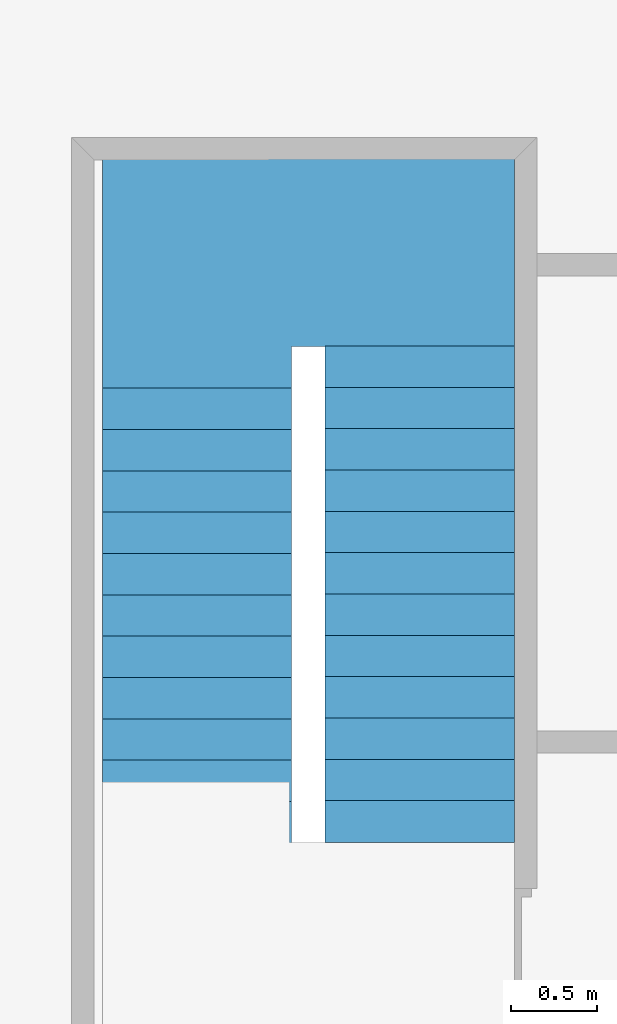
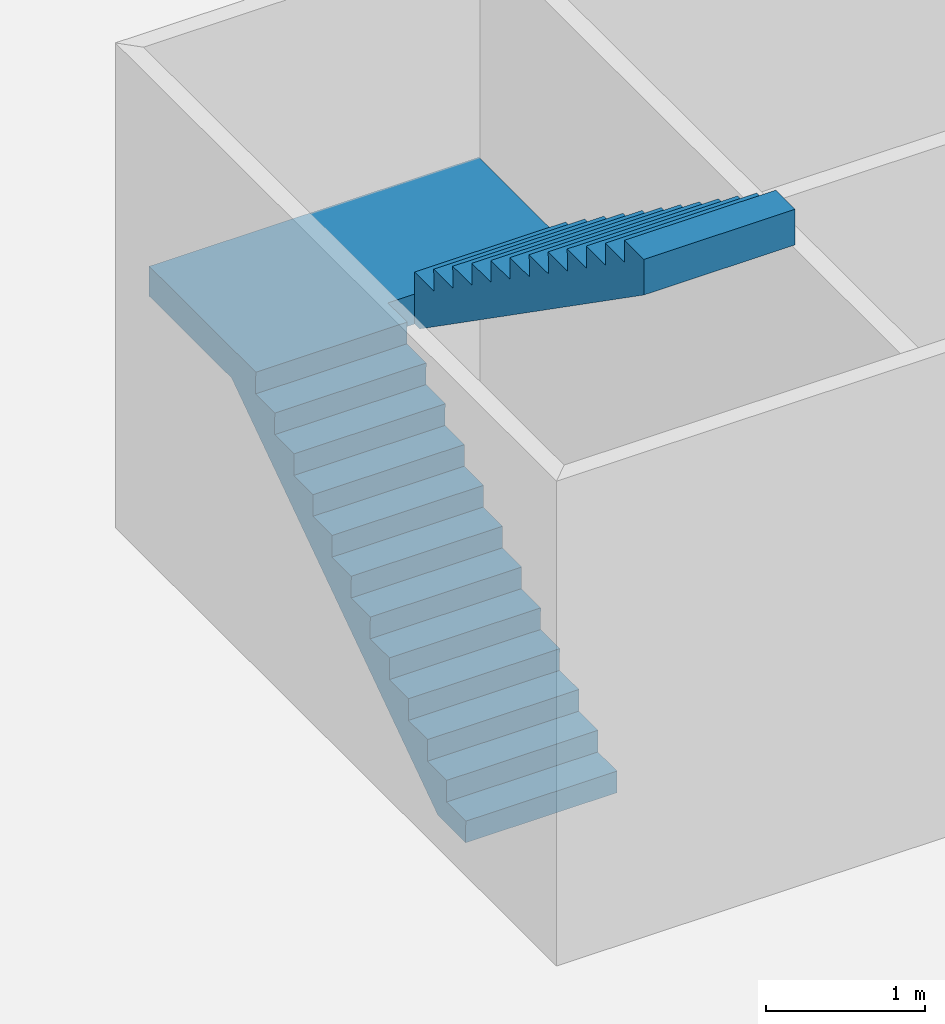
# One storey, part 25 of 27: 1 stair.
"""IFC2X3 building model written with IfcOpenShell, lengths in metres."""

from ifc_helpers import new_model, entity, si_unit, converted_unit, money_unit, direction, frame, origin_with_axes, place, context, subcontext, project, spatial, faceted_brep, material, element, save


model = new_model("IFC2X3")

# Units and contexts
model_context = context("Model", 3, precision=1e-05, world=origin_with_axes(), true_north=direction((0.0, 1.0)))
body_context = subcontext(model_context, "Body", "Model", "MODEL_VIEW")
ifc_project = project(units=[si_unit("LENGTHUNIT", "METRE"), si_unit("AREAUNIT", "SQUARE_METRE"), si_unit("VOLUMEUNIT", "CUBIC_METRE"), converted_unit("PLANEANGLEUNIT", "DEGREE", entity("IfcPlaneAngleMeasure", 0.0174532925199), si_unit("PLANEANGLEUNIT", "RADIAN"), dimensions=[0, 0, 0, 0, 0, 0, 0]), si_unit("SOLIDANGLEUNIT", "STERADIAN"), money_unit("EUR"), converted_unit("TIMEUNIT", "Year", entity("IfcTimeMeasure", 31556926.0), si_unit("TIMEUNIT", "SECOND"), dimensions=[0, 0, 0, 0, 0, 0, 0]), si_unit("MASSUNIT", "GRAM"), si_unit("THERMODYNAMICTEMPERATUREUNIT", "DEGREE_CELSIUS"), si_unit("LUMINOUSINTENSITYUNIT", "LUMEN")], contexts=[model_context])

# Site, building, storey
site_placement = place(None, origin_with_axes())
site = spatial("IfcSite", under=ifc_project, at=site_placement, Name="Undefined", CompositionType="ELEMENT")
building_placement = place(site_placement, origin_with_axes())
building = spatial("IfcBuilding", under=site, at=building_placement, Name="Undefined", CompositionType="ELEMENT")
storey_placement = place(building_placement, frame((0.0, 0.0, 5.4), z_axis=(0.0, 0.0, 1.0), x_axis=(1.0, 0.0, 0.0)))
storey = spatial("IfcBuildingStorey", under=building, at=storey_placement, Name="R+1", CompositionType="ELEMENT", Elevation=5.4)

# Stair
ifc_material = material(Name="Concrete Block")
stair_placement = place(storey_placement, frame((47.265, 10.6413765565, 0.0), z_axis=(0.0, 0.0, 1.0), x_axis=(0.0, -1.0, 0.0)))
element("IfcStair", 1, at=stair_placement, inside=storey, material=ifc_material, Name="Stair_01", ObjectType="STAIR", ShapeType="NOTDEFINED", context=body_context, shape_type="Brep", body=[
    faceted_brep([(-0.349169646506, 0.0, 0.0), (-2.94657736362, 0.0, 1.785), (-2.94657736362, 1.1, 1.785), (-0.349169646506, 1.1, 0.0), (-0.02, 0.0, 0.0), (-0.02, 0.0, 0.137916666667), (-0.260301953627, 0.0, 0.137916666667), (-0.260301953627, 0.0, 0.305833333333), (-0.500603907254, 0.0, 0.305833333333), (-0.500603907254, 0.0, 0.47375), (-0.740905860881, 0.0, 0.47375), (-0.740905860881, 0.0, 0.641666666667), (-0.981207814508, 0.0, 0.641666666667), (-0.981207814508, 0.0, 0.809583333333), (-1.22150976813, 0.0, 0.809583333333), (-1.22150976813, 0.0, 0.9775), (-1.46181172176, 0.0, 0.9775), (-1.46181172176, 0.0, 1.14541666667), (-1.70211367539, 0.0, 1.14541666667), (-1.70211367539, 0.0, 1.31333333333), (-1.94241562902, 0.0, 1.31333333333), (-1.94241562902, 0.0, 1.48125), (-2.18271758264, 0.0, 1.48125), (-2.18271758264, 0.0, 1.64916666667), (-2.42301953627, 0.0, 1.64916666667), (-2.42301953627, 0.0, 1.81708333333), (-2.6633214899, 0.0, 1.81708333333), (-2.6633214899, 0.0, 1.985), (-2.90362344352, 0.0, 1.985), (-3.98362344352, 0.0, 1.985), (-3.98362344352, 0.0, 1.785), (-3.98362344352, 1.1, 1.785), (-3.98362344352, 1.1, 1.985), (-2.90362344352, 1.1, 1.985), (-2.6633214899, 1.1, 1.985), (-2.6633214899, 1.1, 1.81708333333), (-2.42301953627, 1.1, 1.81708333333), (-2.42301953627, 1.1, 1.64916666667), (-2.18271758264, 1.1, 1.64916666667), (-2.18271758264, 1.1, 1.48125), (-1.94241562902, 1.1, 1.48125), (-1.94241562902, 1.1, 1.31333333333), (-1.70211367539, 1.1, 1.31333333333), (-1.70211367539, 1.1, 1.14541666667), (-1.46181172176, 1.1, 1.14541666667), (-1.46181172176, 1.1, 0.9775), (-1.22150976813, 1.1, 0.9775), (-1.22150976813, 1.1, 0.809583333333), (-0.981207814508, 1.1, 0.809583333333), (-0.981207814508, 1.1, 0.641666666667), (-0.740905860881, 1.1, 0.641666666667), (-0.740905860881, 1.1, 0.47375), (-0.500603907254, 1.1, 0.47375), (-0.500603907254, 1.1, 0.305833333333), (-0.260301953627, 1.1, 0.305833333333), (-0.260301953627, 1.1, 0.137916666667), (-0.02, 1.1, 0.137916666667), (-0.02, 1.1, 0.0)], [[[0, 1, 2, 3]], [[0, 4, 5, 6, 7, 8, 9, 10, 11, 12, 13, 14, 15, 16, 17, 18, 19, 20, 21, 22, 23, 24, 25, 26, 27, 28, 29, 30, 1]], [[1, 30, 31, 2]], [[3, 2, 31, 32, 33, 34, 35, 36, 37, 38, 39, 40, 41, 42, 43, 44, 45, 46, 47, 48, 49, 50, 51, 52, 53, 54, 55, 56, 57]], [[4, 0, 3, 57]], [[5, 4, 57, 56]], [[6, 5, 56, 55]], [[7, 6, 55, 54]], [[8, 7, 54, 53]], [[9, 8, 53, 52]], [[10, 9, 52, 51]], [[11, 10, 51, 50]], [[12, 11, 50, 49]], [[13, 12, 49, 48]], [[14, 13, 48, 47]], [[15, 14, 47, 46]], [[16, 15, 46, 45]], [[17, 16, 45, 44]], [[18, 17, 44, 43]], [[19, 18, 43, 42]], [[20, 19, 42, 41]], [[21, 20, 41, 40]], [[22, 21, 40, 39]], [[23, 22, 39, 38]], [[24, 23, 38, 37]], [[25, 24, 37, 36]], [[26, 25, 36, 35]], [[27, 26, 35, 34]], [[28, 27, 34, 33]], [[29, 28, 33, 32]], [[30, 29, 32, 31]]]),
    faceted_brep([(-2.88362344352, 1.1, 1.985), (-2.88362344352, 1.1, 1.785), (-2.88362344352, 1.29499998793, 1.785), (-2.88362344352, 1.29499998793, 1.985), (-3.98362344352, 1.1, 1.985), (-3.98362344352, 1.1, 1.785), (-2.94657736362, 1.1, 1.785), (-2.94657736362, 1.29499998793, 1.785), (-3.98362344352, 1.29499998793, 1.785), (-3.98362344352, 1.29499998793, 1.985)], [[[0, 1, 2, 3]], [[0, 4, 5, 6, 1]], [[1, 6, 7, 2]], [[3, 2, 7, 8, 9]], [[4, 0, 3, 9]], [[5, 4, 9, 8]], [[6, 5, 8, 7]]]),
    faceted_brep([(-2.88362344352, 1.29499998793, 1.985), (-2.88362344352, 1.29499998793, 1.785), (-2.88362344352, 2.39499998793, 1.785), (-2.88362344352, 2.39499998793, 1.985), (-3.98362344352, 1.29499998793, 1.985), (-3.98362344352, 1.29499998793, 1.785), (-3.98362344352, 2.39499998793, 1.785), (-3.98362344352, 2.39499998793, 1.985)], [[[0, 1, 2, 3]], [[0, 4, 5, 1]], [[1, 5, 6, 2]], [[3, 2, 6, 7]], [[4, 0, 3, 7]], [[5, 4, 7, 6]]]),
    faceted_brep([(-2.88362344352, 1.29499998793, 1.785), (-2.88362344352, 2.39499998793, 1.785), (-2.82066952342, 2.39499998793, 1.785), (-2.82066952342, 1.29499998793, 1.785), (-2.88362344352, 1.29499998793, 1.985), (-2.88362344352, 2.39499998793, 1.985), (-2.86362344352, 2.39499998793, 1.985), (-2.86362344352, 2.39499998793, 2.15291666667), (-2.6233214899, 2.39499998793, 2.15291666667), (-2.6233214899, 2.39499998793, 2.32083333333), (-2.38301953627, 2.39499998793, 2.32083333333), (-2.38301953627, 2.39499998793, 2.48875), (-2.14271758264, 2.39499998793, 2.48875), (-2.14271758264, 2.39499998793, 2.65666666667), (-1.90241562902, 2.39499998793, 2.65666666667), (-1.90241562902, 2.39499998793, 2.82458333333), (-1.66211367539, 2.39499998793, 2.82458333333), (-1.66211367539, 2.39499998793, 2.9925), (-1.42181172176, 2.39499998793, 2.9925), (-1.42181172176, 2.39499998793, 3.16041666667), (-1.18150976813, 2.39499998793, 3.16041666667), (-1.18150976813, 2.39499998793, 3.32833333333), (-0.941207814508, 2.39499998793, 3.32833333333), (-0.941207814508, 2.39499998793, 3.49625), (-0.700905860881, 2.39499998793, 3.49625), (-0.700905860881, 2.39499998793, 3.66416666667), (-0.460603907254, 2.39499998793, 3.66416666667), (-0.460603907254, 2.39499998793, 3.83208333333), (-0.220301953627, 2.39499998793, 3.83208333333), (-0.220301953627, 2.39499998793, 4.0), (0.0, 2.39499998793, 4.0), (0.0, 2.39499998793, 3.75600946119), (0.0, 1.29499998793, 3.75600946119), (0.0, 1.29499998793, 4.0), (-0.220301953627, 1.29499998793, 4.0), (-0.220301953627, 1.29499998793, 3.83208333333), (-0.460603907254, 1.29499998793, 3.83208333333), (-0.460603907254, 1.29499998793, 3.66416666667), (-0.700905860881, 1.29499998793, 3.66416666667), (-0.700905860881, 1.29499998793, 3.49625), (-0.941207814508, 1.29499998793, 3.49625), (-0.941207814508, 1.29499998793, 3.32833333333), (-1.18150976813, 1.29499998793, 3.32833333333), (-1.18150976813, 1.29499998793, 3.16041666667), (-1.42181172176, 1.29499998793, 3.16041666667), (-1.42181172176, 1.29499998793, 2.9925), (-1.66211367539, 1.29499998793, 2.9925), (-1.66211367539, 1.29499998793, 2.82458333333), (-1.90241562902, 1.29499998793, 2.82458333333), (-1.90241562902, 1.29499998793, 2.65666666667), (-2.14271758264, 1.29499998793, 2.65666666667), (-2.14271758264, 1.29499998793, 2.48875), (-2.38301953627, 1.29499998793, 2.48875), (-2.38301953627, 1.29499998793, 2.32083333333), (-2.6233214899, 1.29499998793, 2.32083333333), (-2.6233214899, 1.29499998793, 2.15291666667), (-2.86362344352, 1.29499998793, 2.15291666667), (-2.86362344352, 1.29499998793, 1.985)], [[[0, 1, 2, 3]], [[4, 5, 1, 0]], [[1, 5, 6, 7, 8, 9, 10, 11, 12, 13, 14, 15, 16, 17, 18, 19, 20, 21, 22, 23, 24, 25, 26, 27, 28, 29, 30, 31, 2]], [[3, 2, 31, 32]], [[0, 3, 32, 33, 34, 35, 36, 37, 38, 39, 40, 41, 42, 43, 44, 45, 46, 47, 48, 49, 50, 51, 52, 53, 54, 55, 56, 57, 4]], [[57, 6, 5, 4]], [[56, 7, 6, 57]], [[55, 8, 7, 56]], [[54, 9, 8, 55]], [[53, 10, 9, 54]], [[52, 11, 10, 53]], [[51, 12, 11, 52]], [[50, 13, 12, 51]], [[49, 14, 13, 50]], [[48, 15, 14, 49]], [[47, 16, 15, 48]], [[46, 17, 16, 47]], [[45, 18, 17, 46]], [[44, 19, 18, 45]], [[43, 20, 19, 44]], [[42, 21, 20, 43]], [[41, 22, 21, 42]], [[40, 23, 22, 41]], [[39, 24, 23, 40]], [[38, 25, 24, 39]], [[37, 26, 25, 38]], [[36, 27, 26, 37]], [[35, 28, 27, 36]], [[34, 29, 28, 35]], [[33, 30, 29, 34]], [[32, 31, 30, 33]]]),
    faceted_brep([(0.0, 0.0, 0.0), (-0.02, 0.0, 0.0), (-0.02, 1.1, 0.0), (0.0, 1.1, 0.0), (0.0, 0.0, 0.137916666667), (-0.02, 0.0, 0.137916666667), (-0.02, 1.1, 0.137916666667), (0.0, 1.1, 0.137916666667)], [[[0, 1, 2, 3]], [[0, 4, 5, 1]], [[1, 5, 6, 2]], [[3, 2, 6, 7]], [[4, 0, 3, 7]], [[5, 4, 7, 6]]]),
    faceted_brep([(-0.240301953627, 0.0, 0.167916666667), (-0.260301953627, 0.0, 0.167916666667), (-0.260301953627, 1.1, 0.167916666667), (-0.240301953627, 1.1, 0.167916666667), (-0.240301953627, 0.0, 0.305833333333), (-0.260301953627, 0.0, 0.305833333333), (-0.260301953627, 1.1, 0.305833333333), (-0.240301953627, 1.1, 0.305833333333)], [[[0, 1, 2, 3]], [[0, 4, 5, 1]], [[1, 5, 6, 2]], [[3, 2, 6, 7]], [[4, 0, 3, 7]], [[5, 4, 7, 6]]]),
    faceted_brep([(-0.480603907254, 0.0, 0.335833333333), (-0.500603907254, 0.0, 0.335833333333), (-0.500603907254, 1.1, 0.335833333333), (-0.480603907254, 1.1, 0.335833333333), (-0.480603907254, 0.0, 0.47375), (-0.500603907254, 0.0, 0.47375), (-0.500603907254, 1.1, 0.47375), (-0.480603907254, 1.1, 0.47375)], [[[0, 1, 2, 3]], [[0, 4, 5, 1]], [[1, 5, 6, 2]], [[3, 2, 6, 7]], [[4, 0, 3, 7]], [[5, 4, 7, 6]]]),
    faceted_brep([(-0.720905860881, 0.0, 0.50375), (-0.740905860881, 0.0, 0.50375), (-0.740905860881, 1.1, 0.50375), (-0.720905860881, 1.1, 0.50375), (-0.720905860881, 0.0, 0.641666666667), (-0.740905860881, 0.0, 0.641666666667), (-0.740905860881, 1.1, 0.641666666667), (-0.720905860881, 1.1, 0.641666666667)], [[[0, 1, 2, 3]], [[0, 4, 5, 1]], [[1, 5, 6, 2]], [[3, 2, 6, 7]], [[4, 0, 3, 7]], [[5, 4, 7, 6]]]),
    faceted_brep([(-0.961207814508, 0.0, 0.671666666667), (-0.981207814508, 0.0, 0.671666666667), (-0.981207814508, 1.1, 0.671666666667), (-0.961207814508, 1.1, 0.671666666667), (-0.961207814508, 0.0, 0.809583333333), (-0.981207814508, 0.0, 0.809583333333), (-0.981207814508, 1.1, 0.809583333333), (-0.961207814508, 1.1, 0.809583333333)], [[[0, 1, 2, 3]], [[0, 4, 5, 1]], [[1, 5, 6, 2]], [[3, 2, 6, 7]], [[4, 0, 3, 7]], [[5, 4, 7, 6]]]),
    faceted_brep([(-1.20150976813, 0.0, 0.839583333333), (-1.22150976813, 0.0, 0.839583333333), (-1.22150976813, 1.1, 0.839583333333), (-1.20150976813, 1.1, 0.839583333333), (-1.20150976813, 0.0, 0.9775), (-1.22150976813, 0.0, 0.9775), (-1.22150976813, 1.1, 0.9775), (-1.20150976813, 1.1, 0.9775)], [[[0, 1, 2, 3]], [[0, 4, 5, 1]], [[1, 5, 6, 2]], [[3, 2, 6, 7]], [[4, 0, 3, 7]], [[5, 4, 7, 6]]]),
    faceted_brep([(-1.44181172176, 0.0, 1.0075), (-1.46181172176, 0.0, 1.0075), (-1.46181172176, 1.1, 1.0075), (-1.44181172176, 1.1, 1.0075), (-1.44181172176, 0.0, 1.14541666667), (-1.46181172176, 0.0, 1.14541666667), (-1.46181172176, 1.1, 1.14541666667), (-1.44181172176, 1.1, 1.14541666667)], [[[0, 1, 2, 3]], [[0, 4, 5, 1]], [[1, 5, 6, 2]], [[3, 2, 6, 7]], [[4, 0, 3, 7]], [[5, 4, 7, 6]]]),
    faceted_brep([(-1.68211367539, 0.0, 1.17541666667), (-1.70211367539, 0.0, 1.17541666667), (-1.70211367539, 1.1, 1.17541666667), (-1.68211367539, 1.1, 1.17541666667), (-1.68211367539, 0.0, 1.31333333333), (-1.70211367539, 0.0, 1.31333333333), (-1.70211367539, 1.1, 1.31333333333), (-1.68211367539, 1.1, 1.31333333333)], [[[0, 1, 2, 3]], [[0, 4, 5, 1]], [[1, 5, 6, 2]], [[3, 2, 6, 7]], [[4, 0, 3, 7]], [[5, 4, 7, 6]]]),
    faceted_brep([(-1.92241562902, 0.0, 1.34333333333), (-1.94241562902, 0.0, 1.34333333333), (-1.94241562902, 1.1, 1.34333333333), (-1.92241562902, 1.1, 1.34333333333), (-1.92241562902, 0.0, 1.48125), (-1.94241562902, 0.0, 1.48125), (-1.94241562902, 1.1, 1.48125), (-1.92241562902, 1.1, 1.48125)], [[[0, 1, 2, 3]], [[0, 4, 5, 1]], [[1, 5, 6, 2]], [[3, 2, 6, 7]], [[4, 0, 3, 7]], [[5, 4, 7, 6]]]),
    faceted_brep([(-2.16271758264, 0.0, 1.51125), (-2.18271758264, 0.0, 1.51125), (-2.18271758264, 1.1, 1.51125), (-2.16271758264, 1.1, 1.51125), (-2.16271758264, 0.0, 1.64916666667), (-2.18271758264, 0.0, 1.64916666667), (-2.18271758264, 1.1, 1.64916666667), (-2.16271758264, 1.1, 1.64916666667)], [[[0, 1, 2, 3]], [[0, 4, 5, 1]], [[1, 5, 6, 2]], [[3, 2, 6, 7]], [[4, 0, 3, 7]], [[5, 4, 7, 6]]]),
    faceted_brep([(-2.40301953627, 0.0, 1.67916666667), (-2.42301953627, 0.0, 1.67916666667), (-2.42301953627, 1.1, 1.67916666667), (-2.40301953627, 1.1, 1.67916666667), (-2.40301953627, 0.0, 1.81708333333), (-2.42301953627, 0.0, 1.81708333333), (-2.42301953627, 1.1, 1.81708333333), (-2.40301953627, 1.1, 1.81708333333)], [[[0, 1, 2, 3]], [[0, 4, 5, 1]], [[1, 5, 6, 2]], [[3, 2, 6, 7]], [[4, 0, 3, 7]], [[5, 4, 7, 6]]]),
    faceted_brep([(-2.6433214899, 0.0, 1.84708333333), (-2.6633214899, 0.0, 1.84708333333), (-2.6633214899, 1.1, 1.84708333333), (-2.6433214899, 1.1, 1.84708333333), (-2.6433214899, 0.0, 1.985), (-2.6633214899, 0.0, 1.985), (-2.6633214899, 1.1, 1.985), (-2.6433214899, 1.1, 1.985)], [[[0, 1, 2, 3]], [[0, 4, 5, 1]], [[1, 5, 6, 2]], [[3, 2, 6, 7]], [[4, 0, 3, 7]], [[5, 4, 7, 6]]]),
    faceted_brep([(-2.88362344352, 1.29499998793, 2.015), (-2.88362344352, 2.39499998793, 2.015), (-2.86362344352, 2.39499998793, 2.015), (-2.86362344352, 1.29499998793, 2.015), (-2.88362344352, 1.29499998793, 2.15291666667), (-2.88362344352, 2.39499998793, 2.15291666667), (-2.86362344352, 2.39499998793, 2.15291666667), (-2.86362344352, 1.29499998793, 2.15291666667)], [[[0, 1, 2, 3]], [[4, 5, 1, 0]], [[1, 5, 6, 2]], [[3, 2, 6, 7]], [[0, 3, 7, 4]], [[7, 6, 5, 4]]]),
    faceted_brep([(-2.6433214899, 1.29499998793, 2.18291666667), (-2.6433214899, 2.39499998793, 2.18291666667), (-2.6233214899, 2.39499998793, 2.18291666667), (-2.6233214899, 1.29499998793, 2.18291666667), (-2.6433214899, 1.29499998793, 2.32083333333), (-2.6433214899, 2.39499998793, 2.32083333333), (-2.6233214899, 2.39499998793, 2.32083333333), (-2.6233214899, 1.29499998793, 2.32083333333)], [[[0, 1, 2, 3]], [[4, 5, 1, 0]], [[1, 5, 6, 2]], [[3, 2, 6, 7]], [[0, 3, 7, 4]], [[7, 6, 5, 4]]]),
    faceted_brep([(-2.40301953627, 1.29499998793, 2.35083333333), (-2.40301953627, 2.39499998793, 2.35083333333), (-2.38301953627, 2.39499998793, 2.35083333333), (-2.38301953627, 1.29499998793, 2.35083333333), (-2.40301953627, 1.29499998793, 2.48875), (-2.40301953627, 2.39499998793, 2.48875), (-2.38301953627, 2.39499998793, 2.48875), (-2.38301953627, 1.29499998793, 2.48875)], [[[0, 1, 2, 3]], [[4, 5, 1, 0]], [[1, 5, 6, 2]], [[3, 2, 6, 7]], [[0, 3, 7, 4]], [[7, 6, 5, 4]]]),
    faceted_brep([(-2.16271758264, 1.29499998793, 2.51875), (-2.16271758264, 2.39499998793, 2.51875), (-2.14271758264, 2.39499998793, 2.51875), (-2.14271758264, 1.29499998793, 2.51875), (-2.16271758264, 1.29499998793, 2.65666666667), (-2.16271758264, 2.39499998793, 2.65666666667), (-2.14271758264, 2.39499998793, 2.65666666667), (-2.14271758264, 1.29499998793, 2.65666666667)], [[[0, 1, 2, 3]], [[4, 5, 1, 0]], [[1, 5, 6, 2]], [[3, 2, 6, 7]], [[0, 3, 7, 4]], [[7, 6, 5, 4]]]),
    faceted_brep([(-1.92241562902, 1.29499998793, 2.68666666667), (-1.92241562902, 2.39499998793, 2.68666666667), (-1.90241562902, 2.39499998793, 2.68666666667), (-1.90241562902, 1.29499998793, 2.68666666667), (-1.92241562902, 1.29499998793, 2.82458333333), (-1.92241562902, 2.39499998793, 2.82458333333), (-1.90241562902, 2.39499998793, 2.82458333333), (-1.90241562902, 1.29499998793, 2.82458333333)], [[[0, 1, 2, 3]], [[4, 5, 1, 0]], [[1, 5, 6, 2]], [[3, 2, 6, 7]], [[0, 3, 7, 4]], [[7, 6, 5, 4]]]),
    faceted_brep([(-1.68211367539, 1.29499998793, 2.85458333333), (-1.68211367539, 2.39499998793, 2.85458333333), (-1.66211367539, 2.39499998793, 2.85458333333), (-1.66211367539, 1.29499998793, 2.85458333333), (-1.68211367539, 1.29499998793, 2.9925), (-1.68211367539, 2.39499998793, 2.9925), (-1.66211367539, 2.39499998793, 2.9925), (-1.66211367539, 1.29499998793, 2.9925)], [[[0, 1, 2, 3]], [[4, 5, 1, 0]], [[1, 5, 6, 2]], [[3, 2, 6, 7]], [[0, 3, 7, 4]], [[7, 6, 5, 4]]]),
    faceted_brep([(-1.44181172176, 1.29499998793, 3.0225), (-1.44181172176, 2.39499998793, 3.0225), (-1.42181172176, 2.39499998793, 3.0225), (-1.42181172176, 1.29499998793, 3.0225), (-1.44181172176, 1.29499998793, 3.16041666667), (-1.44181172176, 2.39499998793, 3.16041666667), (-1.42181172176, 2.39499998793, 3.16041666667), (-1.42181172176, 1.29499998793, 3.16041666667)], [[[0, 1, 2, 3]], [[4, 5, 1, 0]], [[1, 5, 6, 2]], [[3, 2, 6, 7]], [[0, 3, 7, 4]], [[7, 6, 5, 4]]]),
    faceted_brep([(-1.20150976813, 1.29499998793, 3.19041666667), (-1.20150976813, 2.39499998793, 3.19041666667), (-1.18150976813, 2.39499998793, 3.19041666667), (-1.18150976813, 1.29499998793, 3.19041666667), (-1.20150976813, 1.29499998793, 3.32833333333), (-1.20150976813, 2.39499998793, 3.32833333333), (-1.18150976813, 2.39499998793, 3.32833333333), (-1.18150976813, 1.29499998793, 3.32833333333)], [[[0, 1, 2, 3]], [[4, 5, 1, 0]], [[1, 5, 6, 2]], [[3, 2, 6, 7]], [[0, 3, 7, 4]], [[7, 6, 5, 4]]]),
    faceted_brep([(-0.961207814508, 1.29499998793, 3.35833333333), (-0.961207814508, 2.39499998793, 3.35833333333), (-0.941207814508, 2.39499998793, 3.35833333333), (-0.941207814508, 1.29499998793, 3.35833333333), (-0.961207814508, 1.29499998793, 3.49625), (-0.961207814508, 2.39499998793, 3.49625), (-0.941207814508, 2.39499998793, 3.49625), (-0.941207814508, 1.29499998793, 3.49625)], [[[0, 1, 2, 3]], [[4, 5, 1, 0]], [[1, 5, 6, 2]], [[3, 2, 6, 7]], [[0, 3, 7, 4]], [[7, 6, 5, 4]]]),
    faceted_brep([(-0.720905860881, 1.29499998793, 3.52625), (-0.720905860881, 2.39499998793, 3.52625), (-0.700905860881, 2.39499998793, 3.52625), (-0.700905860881, 1.29499998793, 3.52625), (-0.720905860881, 1.29499998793, 3.66416666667), (-0.720905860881, 2.39499998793, 3.66416666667), (-0.700905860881, 2.39499998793, 3.66416666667), (-0.700905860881, 1.29499998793, 3.66416666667)], [[[0, 1, 2, 3]], [[4, 5, 1, 0]], [[1, 5, 6, 2]], [[3, 2, 6, 7]], [[0, 3, 7, 4]], [[7, 6, 5, 4]]]),
    faceted_brep([(-0.480603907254, 1.29499998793, 3.69416666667), (-0.480603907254, 2.39499998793, 3.69416666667), (-0.460603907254, 2.39499998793, 3.69416666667), (-0.460603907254, 1.29499998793, 3.69416666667), (-0.480603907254, 1.29499998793, 3.83208333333), (-0.480603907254, 2.39499998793, 3.83208333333), (-0.460603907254, 2.39499998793, 3.83208333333), (-0.460603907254, 1.29499998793, 3.83208333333)], [[[0, 1, 2, 3]], [[4, 5, 1, 0]], [[1, 5, 6, 2]], [[3, 2, 6, 7]], [[0, 3, 7, 4]], [[7, 6, 5, 4]]]),
    faceted_brep([(-0.240301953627, 1.29499998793, 3.86208333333), (-0.240301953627, 2.39499998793, 3.86208333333), (-0.220301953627, 2.39499998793, 3.86208333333), (-0.220301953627, 1.29499998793, 3.86208333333), (-0.240301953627, 1.29499998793, 4.0), (-0.240301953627, 2.39499998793, 4.0), (-0.220301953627, 2.39499998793, 4.0), (-0.220301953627, 1.29499998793, 4.0)], [[[0, 1, 2, 3]], [[4, 5, 1, 0]], [[1, 5, 6, 2]], [[3, 2, 6, 7]], [[0, 3, 7, 4]], [[7, 6, 5, 4]]]),
    faceted_brep([(0.0025, 0.0, 0.137916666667), (-0.260301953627, 0.0, 0.137916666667), (-0.260301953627, 1.1, 0.137916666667), (0.0025, 1.1, 0.137916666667), (0.0025, 0.0, 0.167916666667), (-0.260301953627, 0.0, 0.167916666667), (-0.260301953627, 1.1, 0.167916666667), (0.0025, 1.1, 0.167916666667)], [[[0, 1, 2, 3]], [[0, 4, 5, 1]], [[1, 5, 6, 2]], [[3, 2, 6, 7]], [[4, 0, 3, 7]], [[5, 4, 7, 6]]]),
    faceted_brep([(-0.237801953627, 0.0, 0.305833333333), (-0.500603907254, 0.0, 0.305833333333), (-0.500603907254, 1.1, 0.305833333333), (-0.237801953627, 1.1, 0.305833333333), (-0.237801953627, 0.0, 0.335833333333), (-0.500603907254, 0.0, 0.335833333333), (-0.500603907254, 1.1, 0.335833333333), (-0.237801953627, 1.1, 0.335833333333)], [[[0, 1, 2, 3]], [[0, 4, 5, 1]], [[1, 5, 6, 2]], [[3, 2, 6, 7]], [[4, 0, 3, 7]], [[5, 4, 7, 6]]]),
    faceted_brep([(-0.478103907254, 0.0, 0.47375), (-0.740905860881, 0.0, 0.47375), (-0.740905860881, 1.1, 0.47375), (-0.478103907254, 1.1, 0.47375), (-0.478103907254, 0.0, 0.50375), (-0.740905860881, 0.0, 0.50375), (-0.740905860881, 1.1, 0.50375), (-0.478103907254, 1.1, 0.50375)], [[[0, 1, 2, 3]], [[0, 4, 5, 1]], [[1, 5, 6, 2]], [[3, 2, 6, 7]], [[4, 0, 3, 7]], [[5, 4, 7, 6]]]),
    faceted_brep([(-0.718405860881, 0.0, 0.641666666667), (-0.981207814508, 0.0, 0.641666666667), (-0.981207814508, 1.1, 0.641666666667), (-0.718405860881, 1.1, 0.641666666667), (-0.718405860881, 0.0, 0.671666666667), (-0.981207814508, 0.0, 0.671666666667), (-0.981207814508, 1.1, 0.671666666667), (-0.718405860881, 1.1, 0.671666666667)], [[[0, 1, 2, 3]], [[0, 4, 5, 1]], [[1, 5, 6, 2]], [[3, 2, 6, 7]], [[4, 0, 3, 7]], [[5, 4, 7, 6]]]),
    faceted_brep([(-0.958707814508, 0.0, 0.809583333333), (-1.22150976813, 0.0, 0.809583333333), (-1.22150976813, 1.1, 0.809583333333), (-0.958707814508, 1.1, 0.809583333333), (-0.958707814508, 0.0, 0.839583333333), (-1.22150976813, 0.0, 0.839583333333), (-1.22150976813, 1.1, 0.839583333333), (-0.958707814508, 1.1, 0.839583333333)], [[[0, 1, 2, 3]], [[0, 4, 5, 1]], [[1, 5, 6, 2]], [[3, 2, 6, 7]], [[4, 0, 3, 7]], [[5, 4, 7, 6]]]),
    faceted_brep([(-1.19900976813, 0.0, 0.9775), (-1.46181172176, 0.0, 0.9775), (-1.46181172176, 1.1, 0.9775), (-1.19900976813, 1.1, 0.9775), (-1.19900976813, 0.0, 1.0075), (-1.46181172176, 0.0, 1.0075), (-1.46181172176, 1.1, 1.0075), (-1.19900976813, 1.1, 1.0075)], [[[0, 1, 2, 3]], [[0, 4, 5, 1]], [[1, 5, 6, 2]], [[3, 2, 6, 7]], [[4, 0, 3, 7]], [[5, 4, 7, 6]]]),
    faceted_brep([(-1.43931172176, 0.0, 1.14541666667), (-1.70211367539, 0.0, 1.14541666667), (-1.70211367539, 1.1, 1.14541666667), (-1.43931172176, 1.1, 1.14541666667), (-1.43931172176, 0.0, 1.17541666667), (-1.70211367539, 0.0, 1.17541666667), (-1.70211367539, 1.1, 1.17541666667), (-1.43931172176, 1.1, 1.17541666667)], [[[0, 1, 2, 3]], [[0, 4, 5, 1]], [[1, 5, 6, 2]], [[3, 2, 6, 7]], [[4, 0, 3, 7]], [[5, 4, 7, 6]]]),
    faceted_brep([(-1.67961367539, 0.0, 1.31333333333), (-1.94241562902, 0.0, 1.31333333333), (-1.94241562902, 1.1, 1.31333333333), (-1.67961367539, 1.1, 1.31333333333), (-1.67961367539, 0.0, 1.34333333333), (-1.94241562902, 0.0, 1.34333333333), (-1.94241562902, 1.1, 1.34333333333), (-1.67961367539, 1.1, 1.34333333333)], [[[0, 1, 2, 3]], [[0, 4, 5, 1]], [[1, 5, 6, 2]], [[3, 2, 6, 7]], [[4, 0, 3, 7]], [[5, 4, 7, 6]]]),
    faceted_brep([(-1.91991562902, 0.0, 1.48125), (-2.18271758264, 0.0, 1.48125), (-2.18271758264, 1.1, 1.48125), (-1.91991562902, 1.1, 1.48125), (-1.91991562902, 0.0, 1.51125), (-2.18271758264, 0.0, 1.51125), (-2.18271758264, 1.1, 1.51125), (-1.91991562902, 1.1, 1.51125)], [[[0, 1, 2, 3]], [[0, 4, 5, 1]], [[1, 5, 6, 2]], [[3, 2, 6, 7]], [[4, 0, 3, 7]], [[5, 4, 7, 6]]]),
    faceted_brep([(-2.16021758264, 0.0, 1.64916666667), (-2.42301953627, 0.0, 1.64916666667), (-2.42301953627, 1.1, 1.64916666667), (-2.16021758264, 1.1, 1.64916666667), (-2.16021758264, 0.0, 1.67916666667), (-2.42301953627, 0.0, 1.67916666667), (-2.42301953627, 1.1, 1.67916666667), (-2.16021758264, 1.1, 1.67916666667)], [[[0, 1, 2, 3]], [[0, 4, 5, 1]], [[1, 5, 6, 2]], [[3, 2, 6, 7]], [[4, 0, 3, 7]], [[5, 4, 7, 6]]]),
    faceted_brep([(-2.40051953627, 0.0, 1.81708333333), (-2.6633214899, 0.0, 1.81708333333), (-2.6633214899, 1.1, 1.81708333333), (-2.40051953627, 1.1, 1.81708333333), (-2.40051953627, 0.0, 1.84708333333), (-2.6633214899, 0.0, 1.84708333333), (-2.6633214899, 1.1, 1.84708333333), (-2.40051953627, 1.1, 1.84708333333)], [[[0, 1, 2, 3]], [[0, 4, 5, 1]], [[1, 5, 6, 2]], [[3, 2, 6, 7]], [[4, 0, 3, 7]], [[5, 4, 7, 6]]]),
    faceted_brep([(-2.6408214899, 0.0, 1.985), (-2.88362344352, 0.0, 1.985), (-2.88362344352, 1.1, 1.985), (-2.6408214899, 1.1, 1.985), (-2.6408214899, 0.0, 2.015), (-2.88362344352, 0.0, 2.015), (-2.88362344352, 1.1, 2.015), (-2.6408214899, 1.1, 2.015)], [[[0, 1, 2, 3]], [[0, 4, 5, 1]], [[1, 5, 6, 2]], [[3, 2, 6, 7]], [[4, 0, 3, 7]], [[5, 4, 7, 6]]]),
    faceted_brep([(-3.98362344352, 0.0, 1.985), (-3.98362344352, 0.0, 2.015), (-3.98362344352, 1.29499998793, 2.015), (-3.98362344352, 1.29499998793, 1.985), (-2.88362344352, 0.0, 1.985), (-2.88362344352, 0.0, 2.015), (-2.88362344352, 1.29499998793, 2.015), (-2.88362344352, 1.29499998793, 1.985)], [[[0, 1, 2, 3]], [[0, 4, 5, 1]], [[1, 5, 6, 2]], [[3, 2, 6, 7]], [[4, 0, 3, 7]], [[5, 4, 7, 6]]]),
    faceted_brep([(-3.98362344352, 1.29499998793, 1.985), (-3.98362344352, 1.29499998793, 2.015), (-3.98362344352, 2.39499998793, 2.015), (-3.98362344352, 2.39499998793, 1.985), (-2.86362344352, 1.29499998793, 1.985), (-2.86362344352, 1.29499998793, 2.015), (-2.86362344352, 2.39499998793, 2.015), (-2.86362344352, 2.39499998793, 1.985)], [[[0, 1, 2, 3]], [[0, 4, 5, 1]], [[1, 5, 6, 2]], [[3, 2, 6, 7]], [[4, 0, 3, 7]], [[5, 4, 7, 6]]]),
    faceted_brep([(-2.88612344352, 1.29499998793, 2.15291666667), (-2.88612344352, 2.39499998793, 2.15291666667), (-2.6233214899, 2.39499998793, 2.15291666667), (-2.6233214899, 1.29499998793, 2.15291666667), (-2.88612344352, 1.29499998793, 2.18291666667), (-2.88612344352, 2.39499998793, 2.18291666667), (-2.6233214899, 2.39499998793, 2.18291666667), (-2.6233214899, 1.29499998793, 2.18291666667)], [[[0, 1, 2, 3]], [[4, 5, 1, 0]], [[1, 5, 6, 2]], [[3, 2, 6, 7]], [[0, 3, 7, 4]], [[7, 6, 5, 4]]]),
    faceted_brep([(-2.6458214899, 1.29499998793, 2.32083333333), (-2.6458214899, 2.39499998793, 2.32083333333), (-2.38301953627, 2.39499998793, 2.32083333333), (-2.38301953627, 1.29499998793, 2.32083333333), (-2.6458214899, 1.29499998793, 2.35083333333), (-2.6458214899, 2.39499998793, 2.35083333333), (-2.38301953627, 2.39499998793, 2.35083333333), (-2.38301953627, 1.29499998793, 2.35083333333)], [[[0, 1, 2, 3]], [[4, 5, 1, 0]], [[1, 5, 6, 2]], [[3, 2, 6, 7]], [[0, 3, 7, 4]], [[7, 6, 5, 4]]]),
    faceted_brep([(-2.40551953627, 1.29499998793, 2.48875), (-2.40551953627, 2.39499998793, 2.48875), (-2.14271758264, 2.39499998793, 2.48875), (-2.14271758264, 1.29499998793, 2.48875), (-2.40551953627, 1.29499998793, 2.51875), (-2.40551953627, 2.39499998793, 2.51875), (-2.14271758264, 2.39499998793, 2.51875), (-2.14271758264, 1.29499998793, 2.51875)], [[[0, 1, 2, 3]], [[4, 5, 1, 0]], [[1, 5, 6, 2]], [[3, 2, 6, 7]], [[0, 3, 7, 4]], [[7, 6, 5, 4]]]),
    faceted_brep([(-2.16521758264, 1.29499998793, 2.65666666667), (-2.16521758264, 2.39499998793, 2.65666666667), (-1.90241562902, 2.39499998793, 2.65666666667), (-1.90241562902, 1.29499998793, 2.65666666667), (-2.16521758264, 1.29499998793, 2.68666666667), (-2.16521758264, 2.39499998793, 2.68666666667), (-1.90241562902, 2.39499998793, 2.68666666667), (-1.90241562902, 1.29499998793, 2.68666666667)], [[[0, 1, 2, 3]], [[4, 5, 1, 0]], [[1, 5, 6, 2]], [[3, 2, 6, 7]], [[0, 3, 7, 4]], [[7, 6, 5, 4]]]),
    faceted_brep([(-1.92491562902, 1.29499998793, 2.82458333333), (-1.92491562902, 2.39499998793, 2.82458333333), (-1.66211367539, 2.39499998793, 2.82458333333), (-1.66211367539, 1.29499998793, 2.82458333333), (-1.92491562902, 1.29499998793, 2.85458333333), (-1.92491562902, 2.39499998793, 2.85458333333), (-1.66211367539, 2.39499998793, 2.85458333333), (-1.66211367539, 1.29499998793, 2.85458333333)], [[[0, 1, 2, 3]], [[4, 5, 1, 0]], [[1, 5, 6, 2]], [[3, 2, 6, 7]], [[0, 3, 7, 4]], [[7, 6, 5, 4]]]),
    faceted_brep([(-1.68461367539, 1.29499998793, 2.9925), (-1.68461367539, 2.39499998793, 2.9925), (-1.42181172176, 2.39499998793, 2.9925), (-1.42181172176, 1.29499998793, 2.9925), (-1.68461367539, 1.29499998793, 3.0225), (-1.68461367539, 2.39499998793, 3.0225), (-1.42181172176, 2.39499998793, 3.0225), (-1.42181172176, 1.29499998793, 3.0225)], [[[0, 1, 2, 3]], [[4, 5, 1, 0]], [[1, 5, 6, 2]], [[3, 2, 6, 7]], [[0, 3, 7, 4]], [[7, 6, 5, 4]]]),
    faceted_brep([(-1.44431172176, 1.29499998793, 3.16041666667), (-1.44431172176, 2.39499998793, 3.16041666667), (-1.18150976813, 2.39499998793, 3.16041666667), (-1.18150976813, 1.29499998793, 3.16041666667), (-1.44431172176, 1.29499998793, 3.19041666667), (-1.44431172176, 2.39499998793, 3.19041666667), (-1.18150976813, 2.39499998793, 3.19041666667), (-1.18150976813, 1.29499998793, 3.19041666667)], [[[0, 1, 2, 3]], [[4, 5, 1, 0]], [[1, 5, 6, 2]], [[3, 2, 6, 7]], [[0, 3, 7, 4]], [[7, 6, 5, 4]]]),
    faceted_brep([(-1.20400976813, 1.29499998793, 3.32833333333), (-1.20400976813, 2.39499998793, 3.32833333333), (-0.941207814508, 2.39499998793, 3.32833333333), (-0.941207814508, 1.29499998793, 3.32833333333), (-1.20400976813, 1.29499998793, 3.35833333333), (-1.20400976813, 2.39499998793, 3.35833333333), (-0.941207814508, 2.39499998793, 3.35833333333), (-0.941207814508, 1.29499998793, 3.35833333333)], [[[0, 1, 2, 3]], [[4, 5, 1, 0]], [[1, 5, 6, 2]], [[3, 2, 6, 7]], [[0, 3, 7, 4]], [[7, 6, 5, 4]]]),
    faceted_brep([(-0.963707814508, 1.29499998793, 3.49625), (-0.963707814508, 2.39499998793, 3.49625), (-0.700905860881, 2.39499998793, 3.49625), (-0.700905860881, 1.29499998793, 3.49625), (-0.963707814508, 1.29499998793, 3.52625), (-0.963707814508, 2.39499998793, 3.52625), (-0.700905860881, 2.39499998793, 3.52625), (-0.700905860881, 1.29499998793, 3.52625)], [[[0, 1, 2, 3]], [[4, 5, 1, 0]], [[1, 5, 6, 2]], [[3, 2, 6, 7]], [[0, 3, 7, 4]], [[7, 6, 5, 4]]]),
    faceted_brep([(-0.723405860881, 1.29499998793, 3.66416666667), (-0.723405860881, 2.39499998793, 3.66416666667), (-0.460603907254, 2.39499998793, 3.66416666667), (-0.460603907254, 1.29499998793, 3.66416666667), (-0.723405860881, 1.29499998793, 3.69416666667), (-0.723405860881, 2.39499998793, 3.69416666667), (-0.460603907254, 2.39499998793, 3.69416666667), (-0.460603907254, 1.29499998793, 3.69416666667)], [[[0, 1, 2, 3]], [[4, 5, 1, 0]], [[1, 5, 6, 2]], [[3, 2, 6, 7]], [[0, 3, 7, 4]], [[7, 6, 5, 4]]]),
    faceted_brep([(-0.483103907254, 1.29499998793, 3.83208333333), (-0.483103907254, 2.39499998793, 3.83208333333), (-0.220301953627, 2.39499998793, 3.83208333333), (-0.220301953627, 1.29499998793, 3.83208333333), (-0.483103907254, 1.29499998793, 3.86208333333), (-0.483103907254, 2.39499998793, 3.86208333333), (-0.220301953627, 2.39499998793, 3.86208333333), (-0.220301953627, 1.29499998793, 3.86208333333)], [[[0, 1, 2, 3]], [[4, 5, 1, 0]], [[1, 5, 6, 2]], [[3, 2, 6, 7]], [[0, 3, 7, 4]], [[7, 6, 5, 4]]]),
    faceted_brep([(-0.242801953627, 1.29499998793, 4.0), (-0.242801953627, 2.39499998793, 4.0), (0.0, 2.39499998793, 4.0), (0.0, 1.29499998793, 4.0), (-0.242801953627, 1.29499998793, 4.03), (-0.242801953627, 2.39499998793, 4.03), (0.0, 2.39499998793, 4.03), (0.0, 1.29499998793, 4.03)], [[[0, 1, 2, 3]], [[4, 5, 1, 0]], [[1, 5, 6, 2]], [[3, 2, 6, 7]], [[0, 3, 7, 4]], [[7, 6, 5, 4]]]),
])

save(model, "model.ifc")
